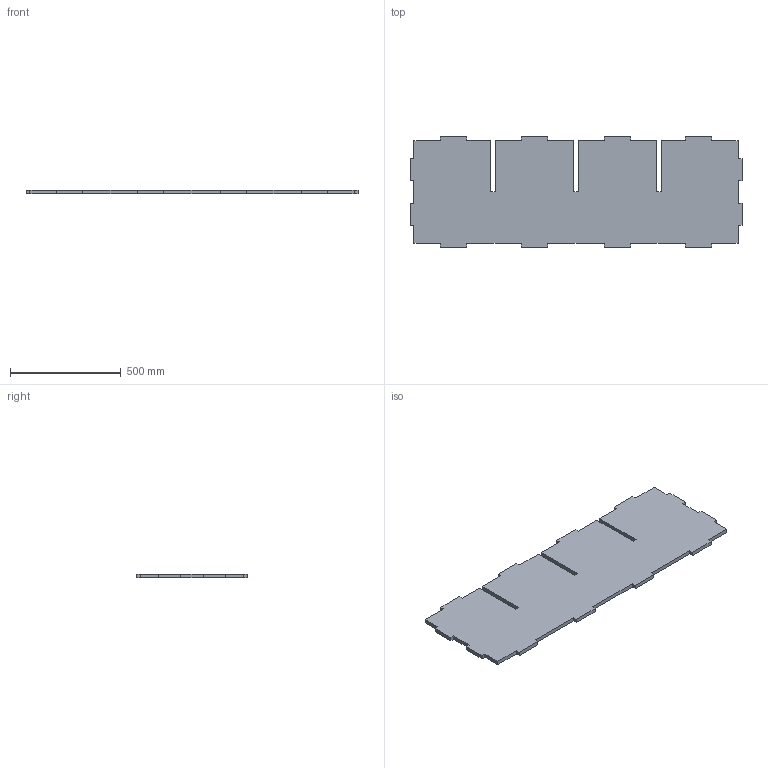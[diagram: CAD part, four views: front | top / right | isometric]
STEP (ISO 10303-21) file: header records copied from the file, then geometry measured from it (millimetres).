
FILE_DESCRIPTION(('Open CASCADE Model'),'2;1');
FILE_NAME('Open CASCADE Shape Model','2026-09-28T10:14:45',('Author'),( 'Open CASCADE'),'Open CASCADE STEP processor 7.9','Open CASCADE 7.9' ,'Unknown');
FILE_SCHEMA(('AUTOMOTIVE_DESIGN { 1 0 10303 214 1 1 1 1 }'));
Length unit declared in the file: millimetre
Products named in the file (1): Open CASCADE STEP translator 7.9 72
Bounding box: 1500 x 500 x 18 mm (x, y, z)
Volume: 12439958.4 mm3; surface area: 1484457.6 mm2
Topology: 1 solids, 1 shells, 66 faces, 192 edges, 128 vertices
Faces by surface type: plane 66
Entity records: 4642 total; most frequent: CARTESIAN_POINT 771, DIRECTION 710, LINE 576, VECTOR 576, ORIENTED_EDGE 384, PCURVE 384, DEFINITIONAL_REPRESENTATION 384, EDGE_CURVE 192
